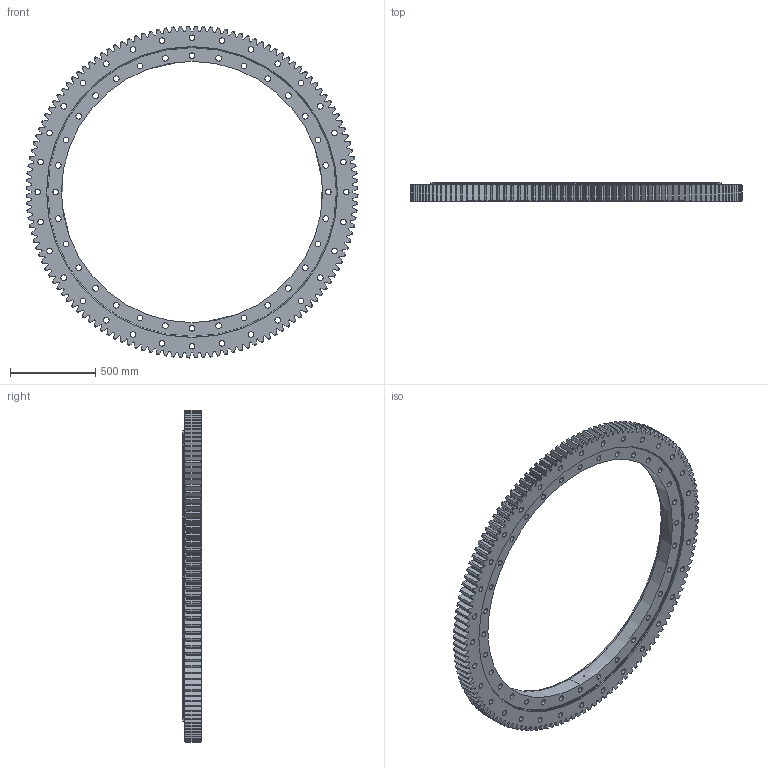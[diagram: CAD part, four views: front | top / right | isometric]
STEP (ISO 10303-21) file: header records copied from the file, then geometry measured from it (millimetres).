
FILE_DESCRIPTION (( 'STEP AP214' ), '1' );
FILE_NAME ('SM2136-2-1943AA.STEP', '2022-11-29T06:46:50', ( '' ), ( '' ), 'SwSTEP 2.0', 'SolidWorks 2020', '' );
FILE_SCHEMA (( 'AUTOMOTIVE_DESIGN' ));
Length unit declared in the file: millimetre
Products named in the file (1): SM2136-2-1943AA
Bounding box: 1942.93 x 108 x 1942.93 mm (x, y, z)
Volume: 93332265.6 mm3; surface area: 5647496.9 mm2
Topology: 4 solids, 4 shells, 1141 faces, 3376 edges, 2252 vertices
Faces by surface type: cylinder 300, plane 289, cone 280, bspline 272
Entity records: 39967 total; most frequent: CARTESIAN_POINT 11258, ORIENTED_EDGE 6752, DIRECTION 4872, EDGE_CURVE 3376, VERTEX_POINT 2252, AXIS2_PLACEMENT_3D 1738, VECTOR 1396, LINE 1396
